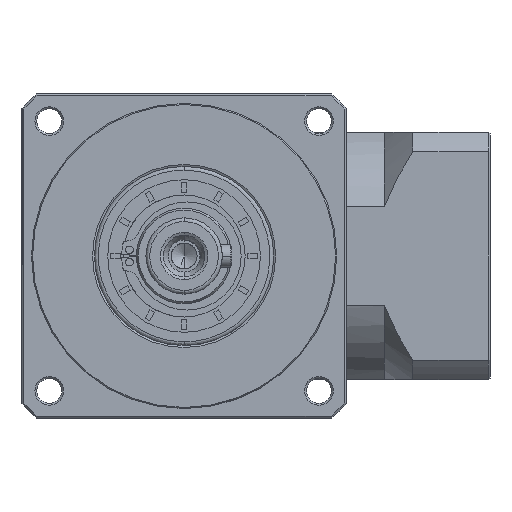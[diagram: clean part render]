
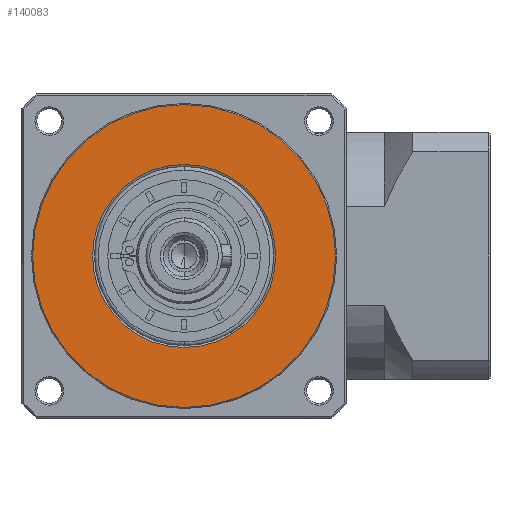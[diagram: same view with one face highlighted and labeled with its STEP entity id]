
A CAD part, left-side view. The second image highlights one B-rep face of the part: STEP entity #140083.
In plain terms, the highlighted planar face has unit normal (-1, 0, 0).
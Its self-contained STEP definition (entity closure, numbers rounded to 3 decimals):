
#247 = CIRCLE ( 'NONE', #109303, 39.711 ) ;
#2090 = AXIS2_PLACEMENT_3D ( 'NONE', #11931, #108391, #25785 ) ;
#3033 = ORIENTED_EDGE ( 'NONE', *, *, #32779, .F. ) ;
#7436 = AXIS2_PLACEMENT_3D ( 'NONE', #121780, #39272, #135646 ) ;
#11433 = CARTESIAN_POINT ( 'NONE',  ( -137.102, -19.575, -83.407 ) ) ;
#11931 = CARTESIAN_POINT ( 'NONE',  ( -137.102, -19.575, -107.407 ) ) ;
#14944 = VERTEX_POINT ( 'NONE', #139652 ) ;
#25157 = ORIENTED_EDGE ( 'NONE', *, *, #127362, .T. ) ;
#25785 = DIRECTION ( 'NONE',  ( 0., 1., 0. ) ) ;
#30367 = CARTESIAN_POINT ( 'NONE',  ( -137.102, -19.575, -107.407 ) ) ;
#31022 = CIRCLE ( 'NONE', #7436, 24. ) ;
#32779 = EDGE_CURVE ( 'NONE', #140341, #14944, #61531, .T. ) ;
#35984 = EDGE_LOOP ( 'NONE', ( #25157, #173508 ) ) ;
#39272 = DIRECTION ( 'NONE',  ( 1., 0., 0. ) ) ;
#41101 = FACE_OUTER_BOUND ( 'NONE', #79002, .T. ) ;
#44198 = DIRECTION ( 'NONE',  ( 0., 0., -1. ) ) ;
#51308 = CARTESIAN_POINT ( 'NONE',  ( -137.102, -59.286, -107.407 ) ) ;
#54916 = EDGE_CURVE ( 'NONE', #14944, #140341, #247, .T. ) ;
#57458 = PLANE ( 'NONE',  #135658 ) ;
#61142 = CARTESIAN_POINT ( 'NONE',  ( -137.102, -19.575, -107.407 ) ) ;
#61531 = CIRCLE ( 'NONE', #2090, 39.711 ) ;
#62351 = VERTEX_POINT ( 'NONE', #11433 ) ;
#69265 = CARTESIAN_POINT ( 'NONE',  ( -137.102, -19.575, -107.407 ) ) ;
#71292 = ORIENTED_EDGE ( 'NONE', *, *, #54916, .F. ) ;
#75110 = DIRECTION ( 'NONE',  ( 0., 0., -1. ) ) ;
#77869 = FACE_BOUND ( 'NONE', #35984, .T. ) ;
#79002 = EDGE_LOOP ( 'NONE', ( #71292, #3033 ) ) ;
#83147 = DIRECTION ( 'NONE',  ( 0., 1., 0. ) ) ;
#101716 = CIRCLE ( 'NONE', #137695, 24. ) ;
#108391 = DIRECTION ( 'NONE',  ( 1., 0., 0. ) ) ;
#109303 = AXIS2_PLACEMENT_3D ( 'NONE', #69265, #165572, #83147 ) ;
#119989 = VERTEX_POINT ( 'NONE', #141319 ) ;
#121780 = CARTESIAN_POINT ( 'NONE',  ( -137.102, -19.575, -107.407 ) ) ;
#126728 = DIRECTION ( 'NONE',  ( -1., 0., 0. ) ) ;
#127362 = EDGE_CURVE ( 'NONE', #119989, #62351, #101716, .T. ) ;
#135646 = DIRECTION ( 'NONE',  ( 0., 0., -1. ) ) ;
#135658 = AXIS2_PLACEMENT_3D ( 'NONE', #30367, #126728, #44198 ) ;
#137695 = AXIS2_PLACEMENT_3D ( 'NONE', #61142, #157521, #75110 ) ;
#139652 = CARTESIAN_POINT ( 'NONE',  ( -137.102, 20.136, -107.407 ) ) ;
#140083 = ADVANCED_FACE ( 'NONE', ( #41101, #77869 ), #57458, .T. ) ;
#140341 = VERTEX_POINT ( 'NONE', #51308 ) ;
#141319 = CARTESIAN_POINT ( 'NONE',  ( -137.102, -19.575, -131.407 ) ) ;
#157521 = DIRECTION ( 'NONE',  ( 1., 0., 0. ) ) ;
#165572 = DIRECTION ( 'NONE',  ( 1., 0., 0. ) ) ;
#171834 = EDGE_CURVE ( 'NONE', #62351, #119989, #31022, .T. ) ;
#173508 = ORIENTED_EDGE ( 'NONE', *, *, #171834, .T. ) ;
